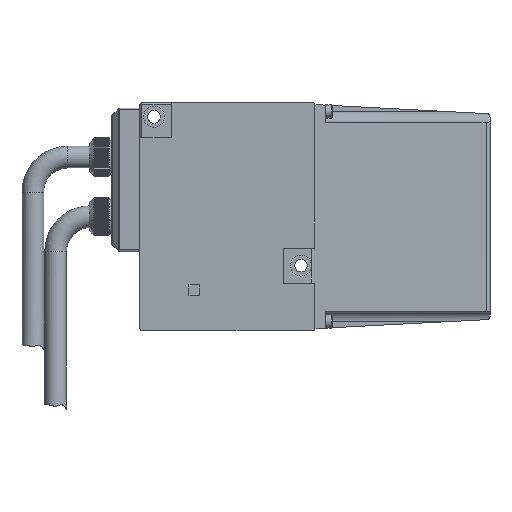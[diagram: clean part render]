
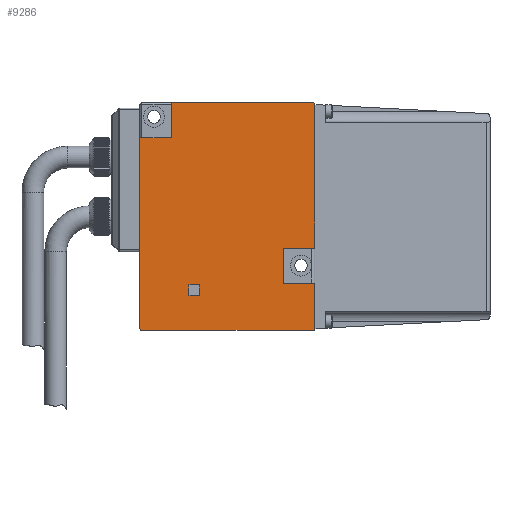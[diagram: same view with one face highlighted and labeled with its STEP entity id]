
A CAD part, front view. The second image highlights one B-rep face of the part: STEP entity #9286.
In plain terms, the highlighted planar face has unit normal (0, -1, 0).
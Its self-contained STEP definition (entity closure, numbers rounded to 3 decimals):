
#396 = ORIENTED_EDGE ( 'NONE', *, *, #2017, .F. ) ;
#397 = ORIENTED_EDGE ( 'NONE', *, *, #2018, .T. ) ;
#398 = ORIENTED_EDGE ( 'NONE', *, *, #2019, .T. ) ;
#399 = ORIENTED_EDGE ( 'NONE', *, *, #2020, .F. ) ;
#400 = ORIENTED_EDGE ( 'NONE', *, *, #2022, .F. ) ;
#401 = ORIENTED_EDGE ( 'NONE', *, *, #2023, .F. ) ;
#402 = ORIENTED_EDGE ( 'NONE', *, *, #2024, .F. ) ;
#403 = ORIENTED_EDGE ( 'NONE', *, *, #2025, .F. ) ;
#404 = ORIENTED_EDGE ( 'NONE', *, *, #2026, .F. ) ;
#1034 = CARTESIAN_POINT ( 'NONE',  ( 41., 0., -51.5 ) ) ;
#1053 = CARTESIAN_POINT ( 'NONE',  ( 9., 0., -10. ) ) ;
#1064 = CARTESIAN_POINT ( 'NONE',  ( 0., 0., -64.5 ) ) ;
#1079 = CARTESIAN_POINT ( 'NONE',  ( 17., 0., -55. ) ) ;
#1302 = LINE ( 'NONE', #9059, #1304 ) ;
#1304 = VECTOR ( 'NONE', #9060, 1000. ) ;
#1305 = LINE ( 'NONE', #9061, #1306 ) ;
#1306 = VECTOR ( 'NONE', #9062, 1000. ) ;
#1307 = LINE ( 'NONE', #9066, #1309 ) ;
#1308 = CIRCLE ( 'NONE', #5296, 0.5 ) ;
#1309 = VECTOR ( 'NONE', #9067, 1000. ) ;
#1310 = LINE ( 'NONE', #9068, #1311 ) ;
#1311 = VECTOR ( 'NONE', #9069, 1000. ) ;
#1312 = LINE ( 'NONE', #9070, #1313 ) ;
#1313 = VECTOR ( 'NONE', #9071, 1000. ) ;
#1314 = LINE ( 'NONE', #9072, #1315 ) ;
#1315 = VECTOR ( 'NONE', #9073, 1000. ) ;
#1316 = LINE ( 'NONE', #9077, #1318 ) ;
#1317 = CIRCLE ( 'NONE', #5295, 0.5 ) ;
#1318 = VECTOR ( 'NONE', #9078, 1000. ) ;
#1319 = LINE ( 'NONE', #9082, #1321 ) ;
#1320 = CIRCLE ( 'NONE', #5294, 0.5 ) ;
#1321 = VECTOR ( 'NONE', #9083, 1000. ) ;
#1322 = LINE ( 'NONE', #9084, #1323 ) ;
#1323 = VECTOR ( 'NONE', #9085, 1000. ) ;
#1324 = LINE ( 'NONE', #9090, #1325 ) ;
#1325 = VECTOR ( 'NONE', #9091, 1000. ) ;
#1326 = LINE ( 'NONE', #9092, #1327 ) ;
#1327 = VECTOR ( 'NONE', #9093, 1000. ) ;
#1328 = LINE ( 'NONE', #9094, #1329 ) ;
#1329 = VECTOR ( 'NONE', #9095, 1000. ) ;
#1330 = LINE ( 'NONE', #9096, #1331 ) ;
#1331 = VECTOR ( 'NONE', #9097, 1000. ) ;
#1332 = LINE ( 'NONE', #9098, #1333 ) ;
#1333 = VECTOR ( 'NONE', #9099, 1000. ) ;
#2009 = EDGE_CURVE ( '������39', #6238, #6216, #1302, .T. ) ;
#2010 = EDGE_CURVE ( '������17', #6238, #6255, #1305, .T. ) ;
#2011 = EDGE_CURVE ( 'NONE', #6255, #6170, #1308, .T. ) ;
#2012 = EDGE_CURVE ( 'NONE', #6150, #6170, #1307, .T. ) ;
#2013 = EDGE_CURVE ( '������1', #9695, #6150, #1310, .T. ) ;
#2014 = EDGE_CURVE ( '������48', #9803, #9695, #1312, .T. ) ;
#2015 = EDGE_CURVE ( 'NONE', #9706, #9803, #1314, .T. ) ;
#2016 = EDGE_CURVE ( 'NONE', #9706, #6243, #1317, .T. ) ;
#2017 = EDGE_CURVE ( '������85', #9815, #6243, #1316, .T. ) ;
#2018 = EDGE_CURVE ( 'NONE', #9815, #6152, #1320, .T. ) ;
#2019 = EDGE_CURVE ( '������100', #6152, #9788, #1319, .T. ) ;
#2020 = EDGE_CURVE ( '������45', #9676, #9788, #1322, .T. ) ;
#2022 = EDGE_CURVE ( '������13', #6216, #9676, #1324, .T. ) ;
#2023 = EDGE_CURVE ( 'NONE', #9825, #9721, #1326, .T. ) ;
#2024 = EDGE_CURVE ( 'NONE', #9773, #9825, #1328, .T. ) ;
#2025 = EDGE_CURVE ( 'NONE', #9820, #9773, #1330, .T. ) ;
#2026 = EDGE_CURVE ( 'NONE', #9721, #9820, #1332, .T. ) ;
#3499 = CARTESIAN_POINT ( 'NONE',  ( 14., 0., -52. ) ) ;
#3514 = CARTESIAN_POINT ( 'NONE',  ( 49.866, 0., -51.5 ) ) ;
#3529 = CARTESIAN_POINT ( 'NONE',  ( 0., 0., -10. ) ) ;
#3541 = CARTESIAN_POINT ( 'NONE',  ( 49.5, 0., -65. ) ) ;
#3546 = CARTESIAN_POINT ( 'NONE',  ( 17., 0., -52. ) ) ;
#3551 = CARTESIAN_POINT ( 'NONE',  ( 14., 0., -55. ) ) ;
#4123 = ORIENTED_EDGE ( 'NONE', *, *, #2009, .F. ) ;
#4124 = ORIENTED_EDGE ( 'NONE', *, *, #2010, .T. ) ;
#4125 = ORIENTED_EDGE ( 'NONE', *, *, #2011, .T. ) ;
#4126 = ORIENTED_EDGE ( 'NONE', *, *, #2012, .F. ) ;
#4127 = ORIENTED_EDGE ( 'NONE', *, *, #2013, .F. ) ;
#4128 = ORIENTED_EDGE ( 'NONE', *, *, #2014, .F. ) ;
#4129 = ORIENTED_EDGE ( 'NONE', *, *, #2015, .F. ) ;
#4130 = ORIENTED_EDGE ( 'NONE', *, *, #2016, .T. ) ;
#5294 = AXIS2_PLACEMENT_3D ( 'NONE', #9079, #9080, #9081 ) ;
#5295 = AXIS2_PLACEMENT_3D ( 'NONE', #9074, #9075, #9076 ) ;
#5296 = AXIS2_PLACEMENT_3D ( 'NONE', #9063, #9064, #9065 ) ;
#6007 = CARTESIAN_POINT ( 'NONE',  ( 9., 0., 0. ) ) ;
#6009 = CARTESIAN_POINT ( 'NONE',  ( 49.866, 0., -64.841 ) ) ;
#6023 = CARTESIAN_POINT ( 'NONE',  ( 49.5, 0., 0. ) ) ;
#6062 = CARTESIAN_POINT ( 'NONE',  ( 41., 0., -41.5 ) ) ;
#6080 = CARTESIAN_POINT ( 'NONE',  ( 49.866, 0., -41.5 ) ) ;
#6086 = CARTESIAN_POINT ( 'NONE',  ( 0.5, 0., -65. ) ) ;
#6100 = CARTESIAN_POINT ( 'NONE',  ( 49.866, 0., -0.159 ) ) ;
#6150 = VERTEX_POINT ( 'NONE', #6007 ) ;
#6152 = VERTEX_POINT ( 'NONE', #6009 ) ;
#6170 = VERTEX_POINT ( 'NONE', #6023 ) ;
#6216 = VERTEX_POINT ( 'NONE', #6062 ) ;
#6238 = VERTEX_POINT ( 'NONE', #6080 ) ;
#6243 = VERTEX_POINT ( 'NONE', #6086 ) ;
#6255 = VERTEX_POINT ( 'NONE', #6100 ) ;
#8052 = AXIS2_PLACEMENT_3D ( 'NONE', #12345, #12346, #12347 ) ;
#8790 = FACE_OUTER_BOUND ( 'NONE', #13106, .T. ) ;
#8791 = FACE_BOUND ( 'NONE', #13084, .T. ) ;
#9059 = CARTESIAN_POINT ( 'NONE',  ( 50., 0., -41.5 ) ) ;
#9060 = DIRECTION ( 'NONE',  ( -1., 0., 0. ) ) ;
#9061 = CARTESIAN_POINT ( 'NONE',  ( 49.866, 0., -41.5 ) ) ;
#9062 = DIRECTION ( 'NONE',  ( 0., 0., 1. ) ) ;
#9063 = CARTESIAN_POINT ( 'NONE',  ( 49.5, 0., -0.5 ) ) ;
#9064 = DIRECTION ( 'NONE',  ( 0., -1., 0. ) ) ;
#9065 = DIRECTION ( 'NONE',  ( 0., 0., -1. ) ) ;
#9066 = CARTESIAN_POINT ( 'NONE',  ( 0., 0., 0. ) ) ;
#9067 = DIRECTION ( 'NONE',  ( 1., 0., 0. ) ) ;
#9068 = CARTESIAN_POINT ( 'NONE',  ( 9., 0., 0. ) ) ;
#9069 = DIRECTION ( 'NONE',  ( 0., 0., 1. ) ) ;
#9070 = CARTESIAN_POINT ( 'NONE',  ( 0., 0., -10. ) ) ;
#9071 = DIRECTION ( 'NONE',  ( 1., 0., 0. ) ) ;
#9072 = CARTESIAN_POINT ( 'NONE',  ( 0., 0., 0. ) ) ;
#9073 = DIRECTION ( 'NONE',  ( 0., 0., 1. ) ) ;
#9074 = CARTESIAN_POINT ( 'NONE',  ( 0.5, 0., -64.5 ) ) ;
#9075 = DIRECTION ( 'NONE',  ( 0., -1., 0. ) ) ;
#9076 = DIRECTION ( 'NONE',  ( 0., 0., -1. ) ) ;
#9077 = CARTESIAN_POINT ( 'NONE',  ( 0., 0., -65. ) ) ;
#9078 = DIRECTION ( 'NONE',  ( -1., 0., 0. ) ) ;
#9079 = CARTESIAN_POINT ( 'NONE',  ( 49.5, 0., -64.5 ) ) ;
#9080 = DIRECTION ( 'NONE',  ( 0., -1., 0. ) ) ;
#9081 = DIRECTION ( 'NONE',  ( 0., 0., -1. ) ) ;
#9082 = CARTESIAN_POINT ( 'NONE',  ( 49.866, 0., -64.841 ) ) ;
#9083 = DIRECTION ( 'NONE',  ( 0., 0., 1. ) ) ;
#9084 = CARTESIAN_POINT ( 'NONE',  ( 50., 0., -51.5 ) ) ;
#9085 = DIRECTION ( 'NONE',  ( 1., 0., 0. ) ) ;
#9090 = CARTESIAN_POINT ( 'NONE',  ( 41., 0., -41.5 ) ) ;
#9091 = DIRECTION ( 'NONE',  ( 0., 0., -1. ) ) ;
#9092 = CARTESIAN_POINT ( 'NONE',  ( 14., 0., -55. ) ) ;
#9093 = DIRECTION ( 'NONE',  ( 1., 0., 0. ) ) ;
#9094 = CARTESIAN_POINT ( 'NONE',  ( 14., 0., -52. ) ) ;
#9095 = DIRECTION ( 'NONE',  ( 0., 0., -1. ) ) ;
#9096 = CARTESIAN_POINT ( 'NONE',  ( 14., 0., -52. ) ) ;
#9097 = DIRECTION ( 'NONE',  ( -1., 0., 0. ) ) ;
#9098 = CARTESIAN_POINT ( 'NONE',  ( 17., 0., -52. ) ) ;
#9099 = DIRECTION ( 'NONE',  ( 0., 0., 1. ) ) ;
#9286 = ADVANCED_FACE ( '�����12', ( #8790, #8791 ), #12344, .T. ) ;
#9676 = VERTEX_POINT ( 'NONE', #1034 ) ;
#9695 = VERTEX_POINT ( 'NONE', #1053 ) ;
#9706 = VERTEX_POINT ( 'NONE', #1064 ) ;
#9721 = VERTEX_POINT ( 'NONE', #1079 ) ;
#9773 = VERTEX_POINT ( 'NONE', #3499 ) ;
#9788 = VERTEX_POINT ( 'NONE', #3514 ) ;
#9803 = VERTEX_POINT ( 'NONE', #3529 ) ;
#9815 = VERTEX_POINT ( 'NONE', #3541 ) ;
#9820 = VERTEX_POINT ( 'NONE', #3546 ) ;
#9825 = VERTEX_POINT ( 'NONE', #3551 ) ;
#12344 = PLANE ( 'NONE',  #8052 ) ;
#12345 = CARTESIAN_POINT ( 'NONE',  ( 0., 0., -65. ) ) ;
#12346 = DIRECTION ( 'NONE',  ( 0., -1., 0. ) ) ;
#12347 = DIRECTION ( 'NONE',  ( 0., 0., -1. ) ) ;
#13084 = EDGE_LOOP ( 'NONE', ( #401, #402, #403, #404 ) ) ;
#13106 = EDGE_LOOP ( 'NONE', ( #4123, #4124, #4125, #4126, #4127, #4128, #4129, #4130, #396, #397, #398, #399, #400 ) ) ;
